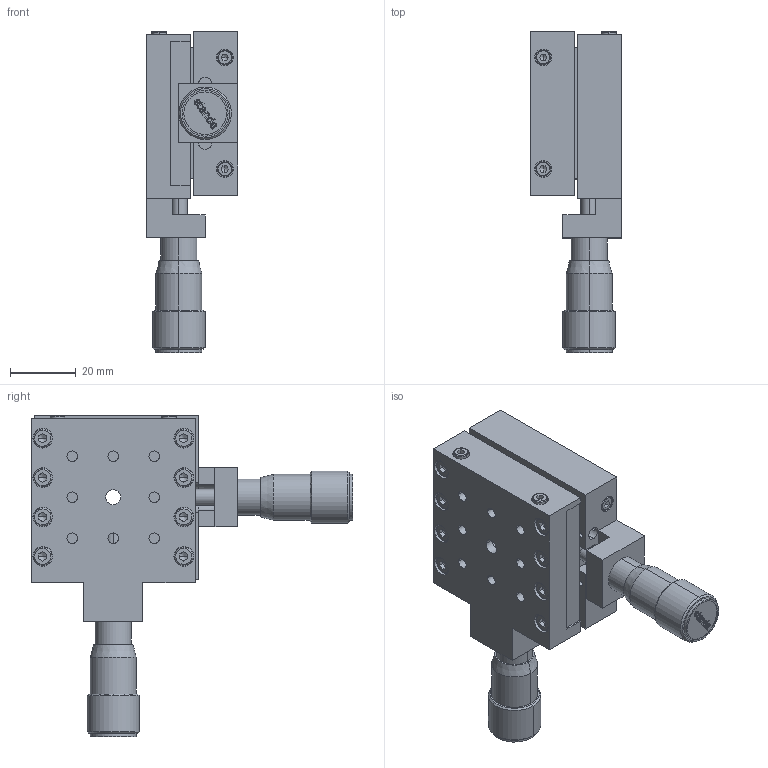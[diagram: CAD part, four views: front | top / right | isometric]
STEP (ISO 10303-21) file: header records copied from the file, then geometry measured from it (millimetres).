
FILE_DESCRIPTION (( 'STEP AP203' ), '1' );
FILE_NAME ('7T273-10.STEP', '2007-09-05T11:13:06', ( 'STANDA' ), ( '' ), 'SwSTEP 2.0', 'SolidWorks 2003240', '' );
FILE_SCHEMA (( 'CONFIG_CONTROL_DESIGN' ));
Products named in the file (1): 7T273-10
Bounding box: 28 x 98 x 98 mm (x, y, z)
Volume: 72984.9 mm3; surface area: 38470.8 mm2
Topology: 1 solids, 39 shells, 1340 faces, 3416 edges, 2184 vertices
Faces by surface type: plane 573, cylinder 405, bspline 194, cone 168
Entity records: 44896 total; most frequent: CARTESIAN_POINT 13599, ORIENTED_EDGE 6656, DIRECTION 6073, EDGE_CURVE 3328, AXIS2_PLACEMENT_3D 2206, VERTEX_POINT 2184, VECTOR 1661, LINE 1661
